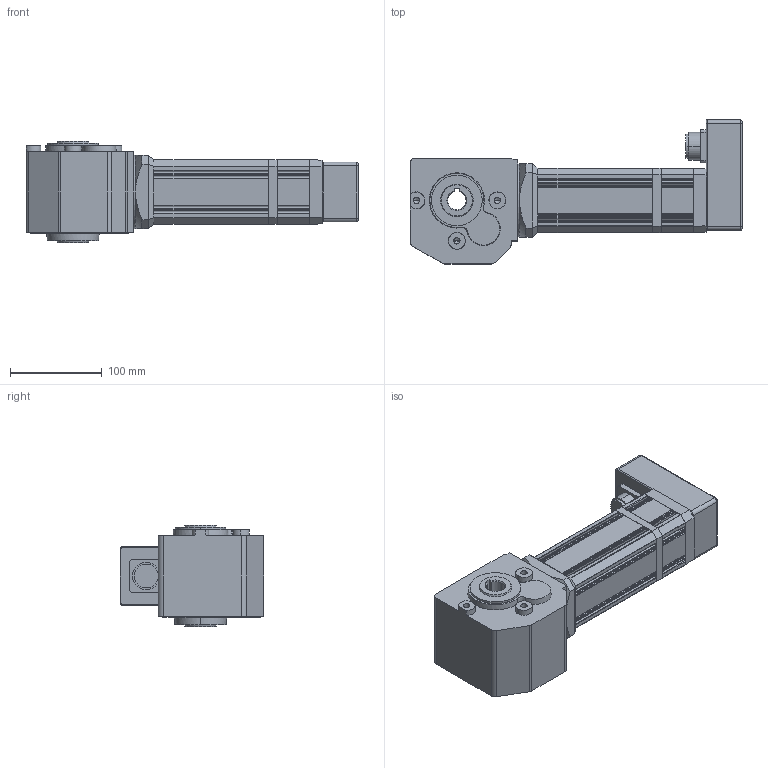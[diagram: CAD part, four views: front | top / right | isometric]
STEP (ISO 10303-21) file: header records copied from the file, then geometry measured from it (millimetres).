
FILE_DESCRIPTION(('OneSpaceDesigner STEP Export'),'2;1');
FILE_NAME('UECG313THL_ZB45_F.stp','2008-06-27T 8:57:13',(''),(''),'OneSpace Designer STEP processor (Jan. 2003) for AP214(CD)(Solid Model)','OneSpace Designer 12.01D 09-Jul-2004 (C) CoCreate Software GmbH','');
FILE_SCHEMA(('AUTOMOTIVE_DESIGN_CC2 {1 2 10303 214 -1 1 5 1}'));
Length unit declared in the file: millimetre
Products named in the file (2): UECG313THL_ZB45_F
Assembly tree (1 placements, depth 2):
  UECG313THL_ZB45_F
    UECG313THL_ZB45_F
Bounding box: 361 x 156.5 x 110 mm (x, y, z)
Volume: 2437681.7 mm3; surface area: 176286.7 mm2
Topology: 1 solids, 1 shells, 441 faces, 1171 edges, 748 vertices
Faces by surface type: plane 222, cylinder 176, cone 20, bspline 15, torus 8
Entity records: 20515 total; most frequent: CARTESIAN_POINT 10080, ORIENTED_EDGE 2330, DIRECTION 1972, EDGE_CURVE 1165, VERTEX_POINT 748, VECTOR 676, LINE 676, AXIS2_PLACEMENT_3D 648
